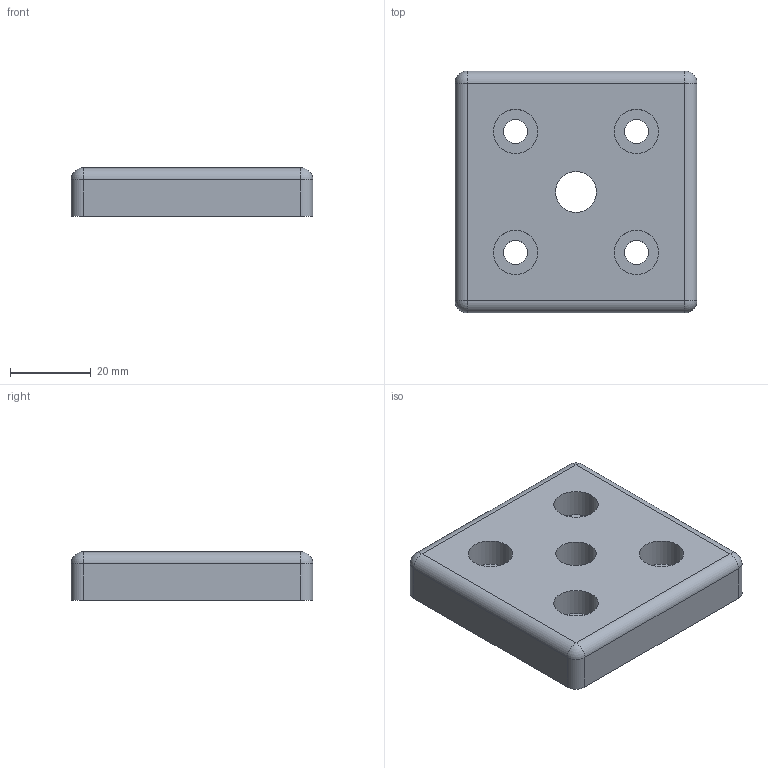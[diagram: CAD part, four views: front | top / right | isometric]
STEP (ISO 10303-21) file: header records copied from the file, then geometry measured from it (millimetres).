
FILE_DESCRIPTION(/* description */ ('STEP AP214'),/* implementation_level */ '2;1');
FILE_NAME(/* name */ 'Transport and Base Plate GN 80i-60606M12-A-ZS',/* time_stamp */ '2024-08-28T12:26:26+02:00',/* author */ ('License CC BY-ND 4.0'),/* organization */ ('CADENAS'),/* preprocessor_version */ 'ST-DEVELOPER v19.3',/* originating_system */ 'PARTsolutions',/* authorisation */ ' ');
FILE_SCHEMA (('AUTOMOTIVE_DESIGN {1 0 10303 214 3 1 1}'));
Length unit declared in the file: millimetre
Products named in the file (1): Transport and Base Plate GN 80i-60606M12-A-ZS
Bounding box: 60 x 60 x 12 mm (x, y, z)
Volume: 38472.9 mm3; surface area: 11035.3 mm2
Topology: 1 solids, 1 shells, 31 faces, 67 edges, 38 vertices
Faces by surface type: cylinder 17, plane 10, sphere 4
Full cylindrical faces by diameter (mm): 6 x4, 10.106 x1, 11 x4
Entity records: 820 total; most frequent: DIRECTION 152, CARTESIAN_POINT 124, ORIENTED_EDGE 108, AXIS2_PLACEMENT_3D 66, EDGE_CURVE 54, EDGE_LOOP 54, FACE_BOUND 54, VERTEX_POINT 38
